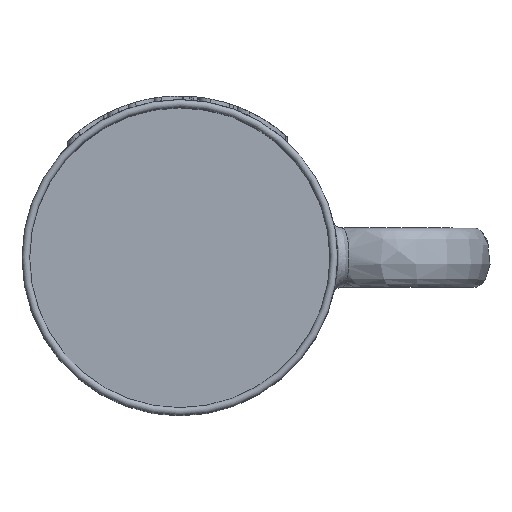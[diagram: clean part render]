
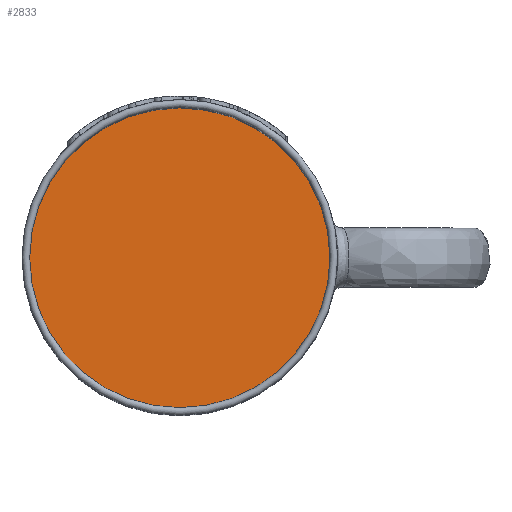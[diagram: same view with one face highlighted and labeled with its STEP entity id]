
A CAD part, top view. The second image highlights one B-rep face of the part: STEP entity #2833.
In plain terms, the highlighted planar face has unit normal (0, 0, 1).
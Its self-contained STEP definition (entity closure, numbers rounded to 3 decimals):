
#72=PLANE('',#3064);
#601=FACE_OUTER_BOUND('',#779,.T.);
#779=EDGE_LOOP('',(#2602));
#861=CIRCLE('',#3063,39.5);
#1318=VERTEX_POINT('',#7964);
#1746=EDGE_CURVE('',#1318,#1318,#861,.T.);
#2602=ORIENTED_EDGE('',*,*,#1746,.F.);
#2833=ADVANCED_FACE('',(#601),#72,.T.);
#3063=AXIS2_PLACEMENT_3D('',#7966,#3614,#3615);
#3064=AXIS2_PLACEMENT_3D('',#7967,#3616,#3617);
#3614=DIRECTION('center_axis',(0.,0.,-1.));
#3615=DIRECTION('ref_axis',(1.,0.,0.));
#3616=DIRECTION('center_axis',(0.,0.,1.));
#3617=DIRECTION('ref_axis',(1.,0.,0.));
#7964=CARTESIAN_POINT('',(-39.5,0.,7.));
#7966=CARTESIAN_POINT('Origin',(0.,0.,7.));
#7967=CARTESIAN_POINT('Origin',(0.,0.,7.));
